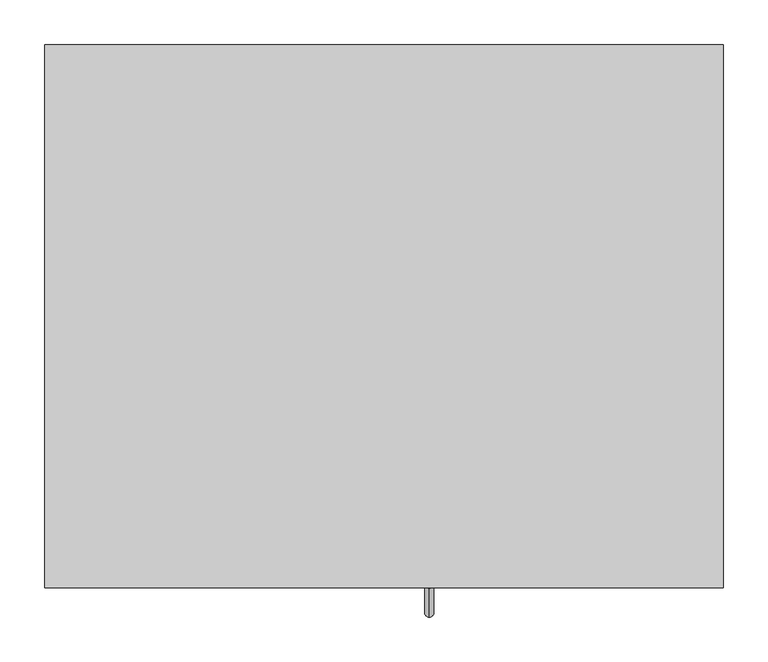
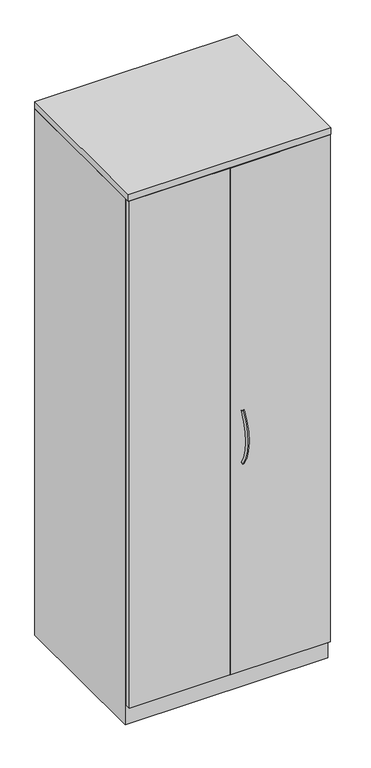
"""IFC4 building model written with IfcOpenShell, lengths in millimetres: furniture geometry, Steelcase - Universal Storage - Cabinet - Wardrobe - 66H-84H - Proud Steel : Side to Side Coat Rod/1 Fixed Shelf - 83 1/2H x 24D x 30W."""

from ifc_helpers import new_model, si_unit, point, frame, origin, place, context, project, spatial, polyline, circle_curve, ellipse_curve, trimmed, outline, extrude, faceted_brep, source, transform, mapped, element, save
from ifc_brep_helpers import plane_surface, revolved_surface, advanced_brep


def furniture_dfc2d383(model_context):
    return source(origin(), model_context, "Body", "SolidModel", [
        extrude(outline(polyline([(762.0, 130.048), (762.0, -479.552), (0.0, -479.552), (0.0, 130.048), (762.0, 130.048)])), frame((0.0, 0.0, 2095.4999516), z_axis=(0.0, 0.0, 1.0), x_axis=(1.0, 0.0, 0.0)), (0.0, 0.0, 1.0), 25.4),
        extrude(outline(polyline([(381.0, -479.552), (3.1725353, -479.552), (3.1725353, -457.3261219), (381.0, -457.3261219), (381.0, -479.552)])), frame((0.0, 0.0, 77.724), z_axis=(0.0, 0.0, 1.0), x_axis=(1.0, 0.0, 0.0)), (0.0, 0.0, 1.0), 2016.252),
        extrude(outline(polyline([(758.8225413, -479.552), (382.5239992, -479.552), (382.5239992, -457.3261219), (758.8225413, -457.3261219), (758.8225413, -479.552)])), frame((0.0, 0.0, 77.724), z_axis=(0.0, 0.0, 1.0), x_axis=(1.0, 0.0, 0.0)), (0.0, 0.0, 1.0), 2016.252),
        advanced_brep(
        [(431.7682496, -480.0678374, 1114.4756859), (431.7682496, -471.5857696, 1108.8828219), (431.7682496, -477.4964738, 894.418042), (431.7682496, -469.1474089, 900.2075769)],
        [
            (0, 1, circle_curve(frame((431.7682496, -475.8268035, 1111.6792539), z_axis=(0.0, 0.5504787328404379, 0.8348491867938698), x_axis=(0.0, 0.8348491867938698, -0.5504787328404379)), 5.08)),
            (1, 0, circle_curve(frame((431.7682496, -475.8268035, 1111.6792539), z_axis=(0.0, 0.5504787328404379, 0.8348491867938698), x_axis=(0.0, 0.8348491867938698, -0.5504787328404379)), 5.08)),
            (2, 3, circle_curve(frame((431.7682496, -473.3219413, 897.3128094), z_axis=(0.0, 0.5698361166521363, -0.8217583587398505), x_axis=(0.0, 0.8217583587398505, 0.5698361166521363)), 5.08)),
            (3, 2, circle_curve(frame((431.7682496, -473.3219413, 897.3128094), z_axis=(0.0, 0.5698361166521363, -0.8217583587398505), x_axis=(0.0, 0.8217583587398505, 0.5698361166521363)), 5.08)),
            (3, 1, circle_curve(frame((431.7682496, -316.0827352, 1006.3479992), z_axis=(-1.0, 0.0, 0.0), x_axis=(0.0, -0.83484918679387, 0.5504787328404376)), 186.2648211)),
            (0, 2, circle_curve(frame((431.7682496, -316.0827352, 1006.3479992), z_axis=(1.0, 0.0, 0.0), x_axis=(0.0, -0.83484918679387, 0.5504787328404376)), 196.4248211)),
        ],
        [
            plane_surface(frame((432.5619996, -475.1785718, 1111.2518261), z_axis=(0.0, 0.5504787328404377, 0.83484918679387), x_axis=(1.0, 0.0, 0.0))),
            plane_surface(frame((432.5619996, -472.6838742, 897.7552676), z_axis=(0.0, 0.5698361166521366, -0.8217583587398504), x_axis=(1.0, 0.0, 0.0))),
            revolved_surface(trimmed(ellipse_curve(frame((431.7682496, -475.8268035, 1111.6792539), z_axis=(0.0, 0.5504787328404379, 0.8348491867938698), x_axis=(0.0, 0.8348491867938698, -0.5504787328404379)), 5.08, 5.08), [point((431.7682496, -480.0678374, 1114.4756859))], [point((431.7682496, -471.5857696, 1108.8828219))], True, "CARTESIAN"), (432.5619996, -316.0827352, 1006.3479992), (1.0, 0.0, 0.0)),
            revolved_surface(trimmed(ellipse_curve(frame((431.7682496, -475.8268035, 1111.6792539), z_axis=(0.0, 0.5504787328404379, 0.8348491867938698), x_axis=(0.0, 0.8348491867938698, -0.5504787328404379)), 5.08, 5.08), [point((431.7682496, -471.5857696, 1108.8828219))], [point((431.7682496, -480.0678374, 1114.4756859))], True, "CARTESIAN"), (432.5619996, -316.0827352, 1006.3479992), (1.0, 0.0, 0.0)),
        ],
        [
            (0, [[1, 2]]),
            (1, [[3, 4]]),
            (2, [[5, -1, 6, -4]]),
            (3, [[-6, -2, -5, -3]]),
        ],
    ),
        faceted_brep([(25.4000008, -457.3261219, 76.2), (736.6000242, -457.3261219, 76.2), (736.6000242, 104.6479992, 76.2), (25.4000008, 104.6479992, 76.2), (762.0, 130.048, 0.0), (762.0, -457.3261219, 0.0), (0.0, -457.3261219, 0.0), (0.0, 130.048, 0.0), (0.0, 130.048, 2093.976), (762.0, 130.048, 2093.976), (0.0, -457.3261219, 2093.976), (762.0, -457.3261219, 2093.976), (736.6000242, -457.3261219, 2093.976), (25.4000008, -457.3261219, 2093.976), (736.6000242, 104.6479992, 2093.976), (25.4000008, 104.6479992, 2093.976)], [[[0, 1, 2, 3]], [[4, 5, 6, 7]], [[4, 7, 8, 9]], [[8, 7, 6, 10]], [[10, 6, 5, 11, 12, 1, 0, 13]], [[11, 5, 4, 9]], [[14, 12, 11, 9, 8, 10, 13, 15]], [[12, 14, 2, 1]], [[15, 13, 0, 3]], [[14, 15, 3, 2]]]),
    ])


if __name__ == "__main__":
    model = new_model("IFC4")
    model_context = context("Model", 3, world=origin())
    ifc_project = project(units=[si_unit("LENGTHUNIT", "METRE", prefix="MILLI")], contexts=[model_context])
    site = spatial("IfcSite", under=ifc_project)
    building = spatial("IfcBuilding", under=site)
    placement = place(None, origin())
    furniture_shape = furniture_dfc2d383(model_context)
    element("IfcFurniture", 1, ObjectType="Steelcase - Universal Storage - Cabinet - Wardrobe - 66H-84H - Proud Steel : Side to Side Coat Rod/1 Fixed Shelf - 83 1/2H x 24D x 30W", at=placement, inside=building, context=model_context, shape_type="MappedRepresentation", body=[
        mapped(furniture_shape, transform((0.0, 0.0, 0.0), x_axis=(1.0, 0.0, 0.0), y_axis=(0.0, 1.0, 0.0), z_axis=(0.0, 0.0, 1.0))),
    ])
    save(model, "model.ifc")
